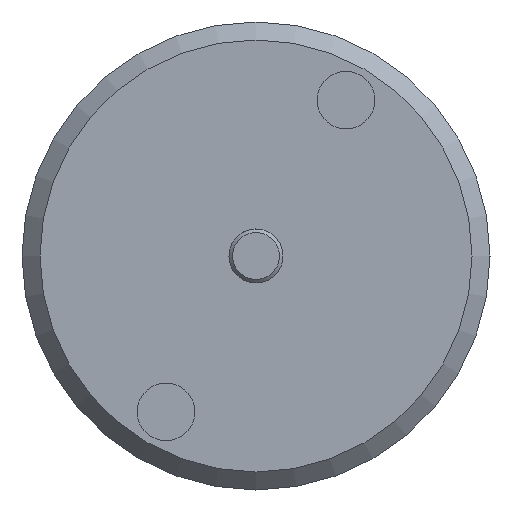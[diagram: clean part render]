
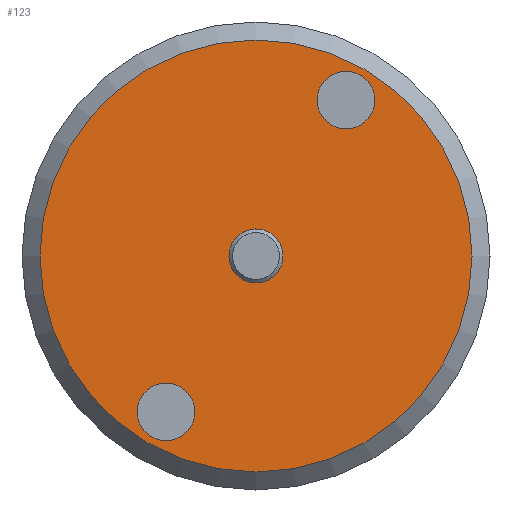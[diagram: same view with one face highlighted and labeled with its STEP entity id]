
A CAD part, left-side view. The second image highlights one B-rep face of the part: STEP entity #123.
In plain terms, the highlighted planar face has unit normal (-1, 0, 0).
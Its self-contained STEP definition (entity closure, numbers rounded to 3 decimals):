
#123=ADVANCED_FACE('',(#167,#168,#169,#170),#171,.F.);
#167=FACE_BOUND('',#246,.T.);
#168=FACE_BOUND('',#247,.T.);
#169=FACE_BOUND('',#248,.T.);
#170=FACE_OUTER_BOUND('',#249,.T.);
#171=PLANE('',#250);
#246=EDGE_LOOP('',(#337));
#247=EDGE_LOOP('',(#338));
#248=EDGE_LOOP('',(#339));
#249=EDGE_LOOP('',(#340));
#250=AXIS2_PLACEMENT_3D('',#341,#342,#343);
#337=ORIENTED_EDGE('',*,*,#450,.T.);
#338=ORIENTED_EDGE('',*,*,#451,.F.);
#339=ORIENTED_EDGE('',*,*,#446,.F.);
#340=ORIENTED_EDGE('',*,*,#452,.T.);
#341=CARTESIAN_POINT('',(0.,2.05,0.0));
#342=DIRECTION('',(1.0,0.0,0.0));
#343=DIRECTION('',(0.0,0.0,-1.0));
#446=EDGE_CURVE('',#482,#482,#483,.T.);
#450=EDGE_CURVE('',#490,#490,#491,.T.);
#451=EDGE_CURVE('',#492,#492,#493,.T.);
#452=EDGE_CURVE('',#494,#494,#495,.T.);
#482=VERTEX_POINT('',#534);
#483=CIRCLE('',#535,0.8);
#490=VERTEX_POINT('',#542);
#491=CIRCLE('',#543,0.75);
#492=VERTEX_POINT('',#544);
#493=CIRCLE('',#545,0.8);
#494=VERTEX_POINT('',#546);
#495=CIRCLE('',#547,6.0);
#534=CARTESIAN_POINT('',(0.,-3.3,4.33));
#535=AXIS2_PLACEMENT_3D('',#596,#597,#598);
#542=CARTESIAN_POINT('',(0.,0.,-0.75));
#543=AXIS2_PLACEMENT_3D('',#608,#609,#610);
#544=CARTESIAN_POINT('',(0.,1.7,-4.33));
#545=AXIS2_PLACEMENT_3D('',#611,#612,#613);
#546=CARTESIAN_POINT('',(0.,0.0,6.0));
#547=AXIS2_PLACEMENT_3D('',#614,#615,#616);
#596=CARTESIAN_POINT('',(0.,-2.5,4.33));
#597=DIRECTION('',(-1.0,0.0,0.0));
#598=DIRECTION('',(0.0,-1.0,0.0));
#608=CARTESIAN_POINT('',(0.,0.,0.));
#609=DIRECTION('',(1.0,0.0,0.0));
#610=DIRECTION('',(0.0,0.0,-1.0));
#611=CARTESIAN_POINT('',(0.,2.5,-4.33));
#612=DIRECTION('',(-1.0,0.0,0.0));
#613=DIRECTION('',(0.0,-1.0,0.0));
#614=CARTESIAN_POINT('',(0.,0.0,0.0));
#615=DIRECTION('',(-1.0,0.0,0.0));
#616=DIRECTION('',(0.0,0.0,1.0));
